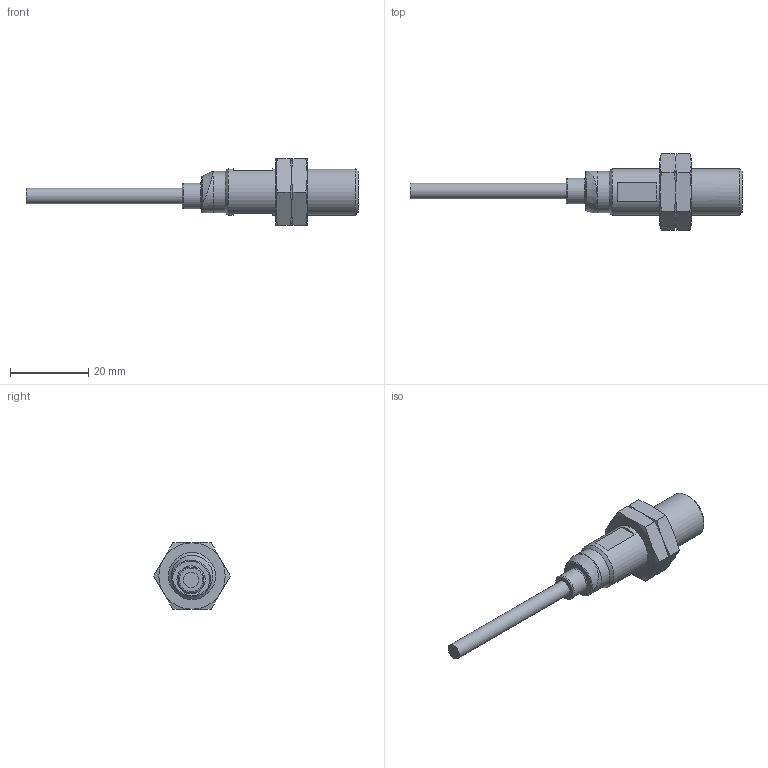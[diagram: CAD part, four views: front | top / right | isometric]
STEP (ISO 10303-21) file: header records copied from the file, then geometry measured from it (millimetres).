
FILE_DESCRIPTION( ( 'STEP AP203' ), '1' );
FILE_NAME( 'p:/temp/worker_71/2116_3760/app_54_02015052110524224462457192d056f_00_00_00_000/STEP/IFS700_2_03.stp', ' ', ( ' ' ), ( ' ' ), 'PSStep 15.0.47', 'PARTsolutions', ' ' );
FILE_SCHEMA( ( 'CONFIG_CONTROL_DESIGN' ) );
Length unit declared in the file: millimetre
Products named in the file (3): IFS700; _IFS700_p1; _IFS700_p2
Assembly tree (3 placements, depth 2):
  IFS700
    _IFS700_p1
    _IFS700_p2  x2
Bounding box: 85 x 19.63 x 17 mm (x, y, z)
Volume: 6198.2 mm3; surface area: 3566.9 mm2
Topology: 3 solids, 3 shells, 69 faces, 145 edges, 86 vertices
Faces by surface type: cone 31, plane 27, cylinder 7, torus 4
Full cylindrical faces by diameter (mm): 4 x1, 6.6 x1, 10.55 x1, 10.6 x1, 10.917 x2, 12 x1
Entity records: 1318 total; most frequent: CARTESIAN_POINT 328, DIRECTION 186, ORIENTED_EDGE 158, AXIS2_PLACEMENT_3D 86, EDGE_CURVE 79, EDGE_LOOP 65, FACE_OUTER_BOUND 54, VERTEX_POINT 54
